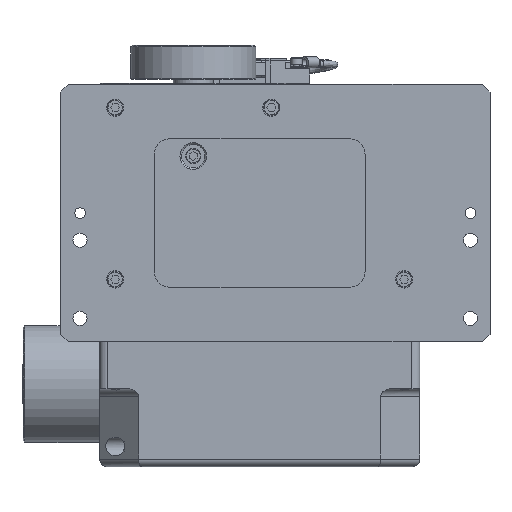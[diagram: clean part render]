
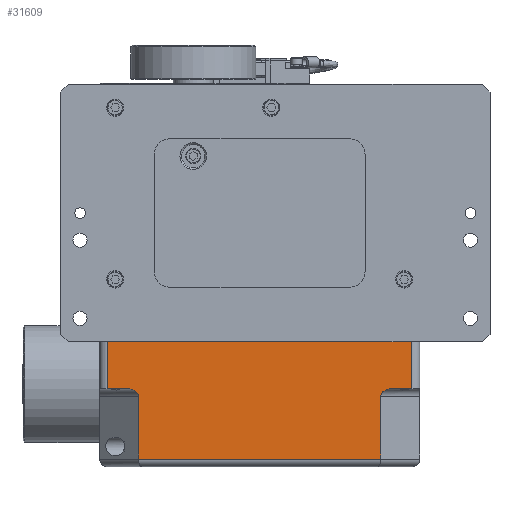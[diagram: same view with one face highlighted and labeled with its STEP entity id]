
A CAD part, front view. The second image highlights one B-rep face of the part: STEP entity #31609.
In plain terms, the highlighted planar face has unit normal (0, -1, 0).
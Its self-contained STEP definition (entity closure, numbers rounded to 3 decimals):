
#620 = CARTESIAN_POINT ( 'NONE',  ( -42.071, -55., -195. ) ) ;
#1092 = ORIENTED_EDGE ( 'NONE', *, *, #52039, .T. ) ;
#1332 = ORIENTED_EDGE ( 'NONE', *, *, #44003, .T. ) ;
#2477 = EDGE_CURVE ( 'NONE', #8852, #32511, #41383, .T. ) ;
#2529 = ORIENTED_EDGE ( 'NONE', *, *, #2477, .F. ) ;
#2571 = DIRECTION ( 'NONE',  ( -1., 0., 0. ) ) ;
#3106 = LINE ( 'NONE', #11321, #46478 ) ;
#3145 = DIRECTION ( 'NONE',  ( 0., 0., 1. ) ) ;
#3154 = ORIENTED_EDGE ( 'NONE', *, *, #47031, .T. ) ;
#4041 = CARTESIAN_POINT ( 'NONE',  ( 140., -55., -150. ) ) ;
#4742 = CARTESIAN_POINT ( 'NONE',  ( 145., -55., -245. ) ) ;
#5838 = LINE ( 'NONE', #22759, #21582 ) ;
#8639 = DIRECTION ( 'NONE',  ( -1., 0., 0. ) ) ;
#8852 = VERTEX_POINT ( 'NONE', #33329 ) ;
#9790 = EDGE_CURVE ( 'NONE', #8852, #50968, #23618, .T. ) ;
#9834 = LINE ( 'NONE', #17479, #24525 ) ;
#10481 = VERTEX_POINT ( 'NONE', #11383 ) ;
#10872 = ORIENTED_EDGE ( 'NONE', *, *, #25177, .F. ) ;
#11321 = CARTESIAN_POINT ( 'NONE',  ( -35., -55., -195. ) ) ;
#11383 = CARTESIAN_POINT ( 'NONE',  ( -35., -55., -240. ) ) ;
#11456 = CARTESIAN_POINT ( 'NONE',  ( -42.071, -55., -195. ) ) ;
#11638 = CARTESIAN_POINT ( 'NONE',  ( 140., -55., -245. ) ) ;
#12164 = DIRECTION ( 'NONE',  ( 0., 0., -1. ) ) ;
#12766 = LINE ( 'NONE', #25280, #41245 ) ;
#13168 = CARTESIAN_POINT ( 'NONE',  ( -37.929, -55., -195. ) ) ;
#13621 = CARTESIAN_POINT ( 'NONE',  ( 120., -55., -197.071 ) ) ;
#15162 = AXIS2_PLACEMENT_3D ( 'NONE', #4742, #24695, #12164 ) ;
#17479 = CARTESIAN_POINT ( 'NONE',  ( 145., -55., -150. ) ) ;
#17995 = VECTOR ( 'NONE', #8639, 1000. ) ;
#19882 = CARTESIAN_POINT ( 'NONE',  ( 120., -55., -200. ) ) ;
#21246 = CARTESIAN_POINT ( 'NONE',  ( 122.929, -55., -195. ) ) ;
#21582 = VECTOR ( 'NONE', #30939, 1000. ) ;
#22288 = CARTESIAN_POINT ( 'NONE',  ( 127.071, -55., -195. ) ) ;
#22759 = CARTESIAN_POINT ( 'NONE',  ( -35., -55., -195. ) ) ;
#23045 = VERTEX_POINT ( 'NONE', #11456 ) ;
#23536 = DIRECTION ( 'NONE',  ( 1., 0., 0. ) ) ;
#23587 = VERTEX_POINT ( 'NONE', #28855 ) ;
#23618 = LINE ( 'NONE', #11638, #30678 ) ;
#23916 = ORIENTED_EDGE ( 'NONE', *, *, #39070, .T. ) ;
#24525 = VECTOR ( 'NONE', #46876, 1000. ) ;
#24695 = DIRECTION ( 'NONE',  ( 0., 1., 0. ) ) ;
#25177 = EDGE_CURVE ( 'NONE', #23045, #49737, #3106, .T. ) ;
#25280 = CARTESIAN_POINT ( 'NONE',  ( 120., -55., -195. ) ) ;
#26227 = CARTESIAN_POINT ( 'NONE',  ( -35., -55., -200. ) ) ;
#27961 = VECTOR ( 'NONE', #23536, 1000. ) ;
#28855 = CARTESIAN_POINT ( 'NONE',  ( -35., -55., -200. ) ) ;
#29782 = EDGE_CURVE ( 'NONE', #23045, #23587, #52294, .T. ) ;
#30678 = VECTOR ( 'NONE', #3145, 1000. ) ;
#30698 = VERTEX_POINT ( 'NONE', #43612 ) ;
#30939 = DIRECTION ( 'NONE',  ( 0., 0., -1. ) ) ;
#31318 = EDGE_CURVE ( 'NONE', #45514, #30698, #12766, .T. ) ;
#31609 = ADVANCED_FACE ( 'NONE', ( #40501 ), #50534, .F. ) ;
#32511 = VERTEX_POINT ( 'NONE', #22288 ) ;
#33329 = CARTESIAN_POINT ( 'NONE',  ( 140., -55., -195. ) ) ;
#33856 =( BOUNDED_CURVE ( )  B_SPLINE_CURVE ( 3, ( #50116, #13621, #21246, #42213 ),
 .UNSPECIFIED., .F., .F. ) 
 B_SPLINE_CURVE_WITH_KNOTS ( ( 4, 4 ),
 ( 0., 1.571 ),
 .UNSPECIFIED. ) 
 CURVE ( )  GEOMETRIC_REPRESENTATION_ITEM ( )  RATIONAL_B_SPLINE_CURVE ( ( 1., 0.805, 0.805, 1. ) ) 
 REPRESENTATION_ITEM ( '' )  );
#37148 = DIRECTION ( 'NONE',  ( 0., 0., -1. ) ) ;
#37280 = CARTESIAN_POINT ( 'NONE',  ( 120., -55., -195. ) ) ;
#39063 = CARTESIAN_POINT ( 'NONE',  ( -55., -55., -150. ) ) ;
#39070 = EDGE_CURVE ( 'NONE', #47669, #49737, #45315, .T. ) ;
#40093 = EDGE_CURVE ( 'NONE', #23587, #10481, #5838, .T. ) ;
#40501 = FACE_OUTER_BOUND ( 'NONE', #51174, .T. ) ;
#41245 = VECTOR ( 'NONE', #50593, 1000. ) ;
#41383 = LINE ( 'NONE', #37280, #17995 ) ;
#42213 = CARTESIAN_POINT ( 'NONE',  ( 127.071, -55., -195. ) ) ;
#43612 = CARTESIAN_POINT ( 'NONE',  ( 120., -55., -240. ) ) ;
#44003 = EDGE_CURVE ( 'NONE', #10481, #30698, #48313, .T. ) ;
#44197 = CARTESIAN_POINT ( 'NONE',  ( -55., -55., -195. ) ) ;
#44229 = CARTESIAN_POINT ( 'NONE',  ( 120., -55., -240. ) ) ;
#44749 = ORIENTED_EDGE ( 'NONE', *, *, #40093, .T. ) ;
#45315 = LINE ( 'NONE', #49138, #52000 ) ;
#45514 = VERTEX_POINT ( 'NONE', #19882 ) ;
#46478 = VECTOR ( 'NONE', #2571, 1000. ) ;
#46876 = DIRECTION ( 'NONE',  ( -1., 0., 0. ) ) ;
#47031 = EDGE_CURVE ( 'NONE', #50968, #47669, #9834, .T. ) ;
#47669 = VERTEX_POINT ( 'NONE', #39063 ) ;
#48313 = LINE ( 'NONE', #44229, #27961 ) ;
#48355 = ORIENTED_EDGE ( 'NONE', *, *, #9790, .T. ) ;
#49138 = CARTESIAN_POINT ( 'NONE',  ( -55., -55., -245. ) ) ;
#49737 = VERTEX_POINT ( 'NONE', #44197 ) ;
#50116 = CARTESIAN_POINT ( 'NONE',  ( 120., -55., -200. ) ) ;
#50214 = CARTESIAN_POINT ( 'NONE',  ( -35., -55., -197.071 ) ) ;
#50534 = PLANE ( 'NONE',  #15162 ) ;
#50593 = DIRECTION ( 'NONE',  ( 0., 0., -1. ) ) ;
#50968 = VERTEX_POINT ( 'NONE', #4041 ) ;
#51174 = EDGE_LOOP ( 'NONE', ( #44749, #1332, #52386, #1092, #2529, #48355, #3154, #23916, #10872, #53736 ) ) ;
#52000 = VECTOR ( 'NONE', #37148, 1000. ) ;
#52039 = EDGE_CURVE ( 'NONE', #45514, #32511, #33856, .T. ) ;
#52294 =( BOUNDED_CURVE ( )  B_SPLINE_CURVE ( 3, ( #620, #13168, #50214, #26227 ),
 .UNSPECIFIED., .F., .T. ) 
 B_SPLINE_CURVE_WITH_KNOTS ( ( 4, 4 ),
 ( 4.712, 6.283 ),
 .UNSPECIFIED. ) 
 CURVE ( )  GEOMETRIC_REPRESENTATION_ITEM ( )  RATIONAL_B_SPLINE_CURVE ( ( 1., 0.805, 0.805, 1. ) ) 
 REPRESENTATION_ITEM ( '' )  );
#52386 = ORIENTED_EDGE ( 'NONE', *, *, #31318, .F. ) ;
#53736 = ORIENTED_EDGE ( 'NONE', *, *, #29782, .T. ) ;
